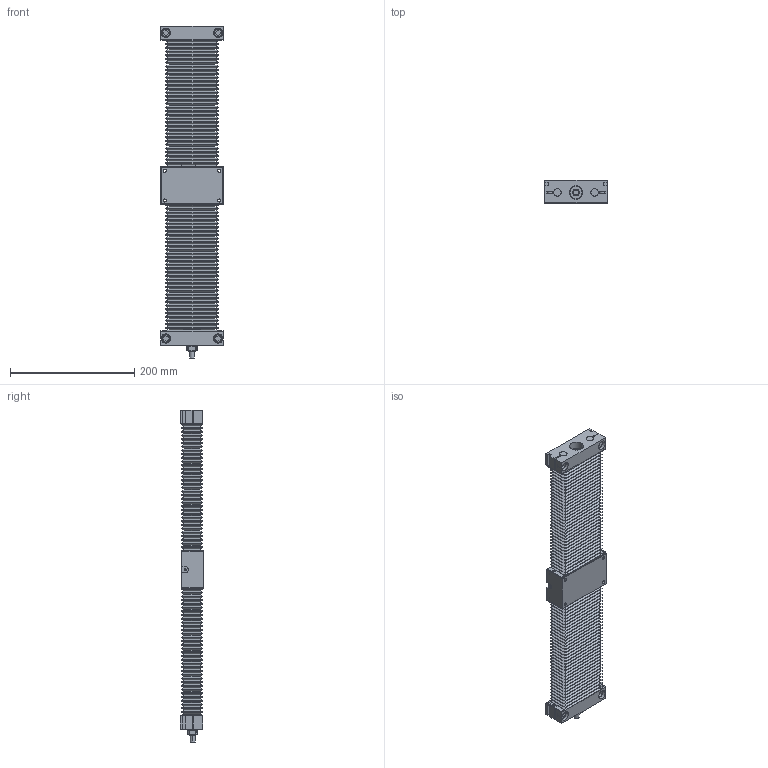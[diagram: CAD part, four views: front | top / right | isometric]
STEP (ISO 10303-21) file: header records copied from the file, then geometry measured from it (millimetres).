
FILE_DESCRIPTION (( 'STEP AP214' ), '1' );
FILE_NAME ('TKC1204B-250H0C-Ä£×é.step', '2025-10-10T09:44:06', ( '' ), ( '' ), 'SwSTEP 2.0', 'SolidWorks 2024', '' );
FILE_SCHEMA (( 'AUTOMOTIVE_DESIGN' ));
Length unit declared in the file: millimetre
Products named in the file (4): TKC1204B-250H0C-模组; TKC12-250-01; TKC12-250-03; TKC12-02
Assembly tree (4 placements, depth 2):
  TKC1204B-250H0C-模组
    TKC12-02
    TKC12-250-01
    TKC12-250-03  x2
Bounding box: 100 x 38 x 534.5 mm (x, y, z)
Volume: 946801.6 mm3; surface area: 410851 mm2
Topology: 14 solids, 14 shells, 1570 faces, 3513 edges, 2019 vertices
Faces by surface type: plane 1125, cylinder 360, cone 46, torus 28, bspline 11
Entity records: 40982 total; most frequent: CARTESIAN_POINT 15390, ORIENTED_EDGE 5178, DIRECTION 5053, EDGE_CURVE 2589, VECTOR 1747, LINE 1747, AXIS2_PLACEMENT_3D 1653, VERTEX_POINT 1559
